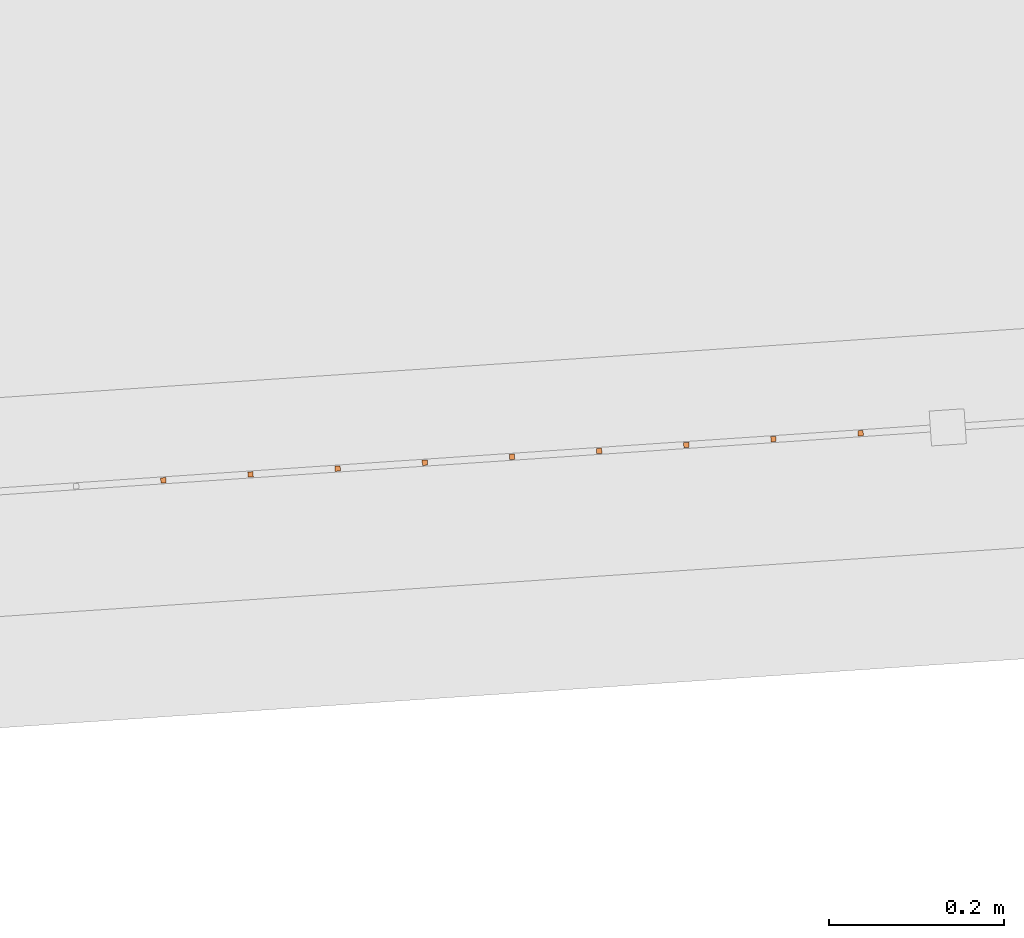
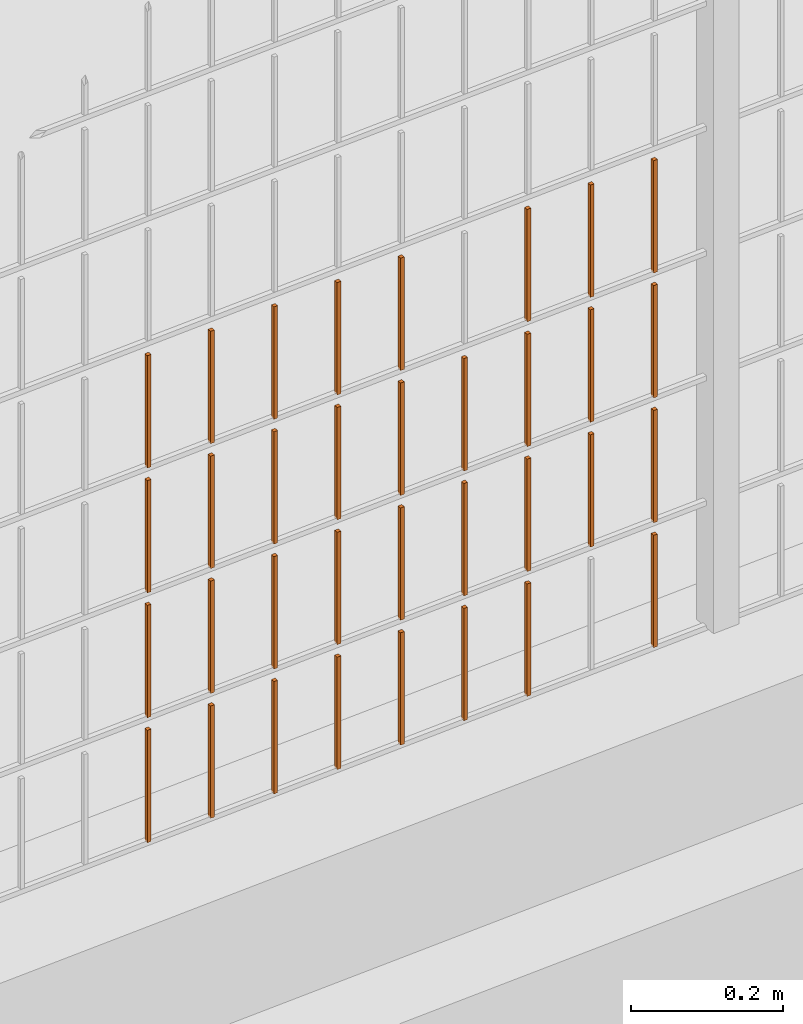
# One storey, part 304 of 1809: 34 proxies, 1 element without a shape of its own.
"""IFC2X3 building model written with IfcOpenShell, lengths in millimetres."""

from ifc_helpers import new_model, entity, si_unit, converted_unit, derived_unit, money_unit, direction, frame, origin_with_axes, place, context, subcontext, project, spatial, faceted_brep, source, transform, mapped, material, type_object, element, aggregate, save


model = new_model("IFC2X3")

# Units and contexts
model_context = context("Model", 3, precision=0.01, world=origin_with_axes(), true_north=direction((0.0, 1.0)))
body_context = subcontext(model_context, "Body", "Model", "MODEL_VIEW")
ifc_project = project(units=[si_unit("LENGTHUNIT", "METRE", prefix="MILLI"), si_unit("AREAUNIT", "SQUARE_METRE"), si_unit("VOLUMEUNIT", "CUBIC_METRE"), converted_unit("PLANEANGLEUNIT", "DEGREE", entity("IfcPlaneAngleMeasure", 0.0174532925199), si_unit("PLANEANGLEUNIT", "RADIAN"), dimensions=[0, 0, 0, 0, 0, 0, 0]), si_unit("SOLIDANGLEUNIT", "STERADIAN"), money_unit("EUR"), converted_unit("TIMEUNIT", "Year", entity("IfcTimeMeasure", 31556926.0), si_unit("TIMEUNIT", "SECOND"), dimensions=[0, 0, 1, 0, 0, 0, 0]), si_unit("MASSUNIT", "GRAM", prefix="KILO"), si_unit("THERMODYNAMICTEMPERATUREUNIT", "DEGREE_CELSIUS"), si_unit("LUMINOUSINTENSITYUNIT", "LUMEN"), si_unit("ENERGYUNIT", "JOULE", prefix="MEGA"), derived_unit("THERMALCONDUCTANCEUNIT", [(si_unit("POWERUNIT", "WATT"), 1), (si_unit("LENGTHUNIT", "METRE"), -1), (si_unit("THERMODYNAMICTEMPERATUREUNIT", "KELVIN"), -1)]), derived_unit("SPECIFICHEATCAPACITYUNIT", [(si_unit("ENERGYUNIT", "JOULE"), 1), (si_unit("MASSUNIT", "GRAM", prefix="KILO"), -1), (si_unit("THERMODYNAMICTEMPERATUREUNIT", "KELVIN"), -1)]), derived_unit("MASSDENSITYUNIT", [(si_unit("MASSUNIT", "GRAM", prefix="KILO"), 1), (si_unit("VOLUMEUNIT", "CUBIC_METRE"), -1)])], contexts=[model_context])

# Site, building, storey
site_placement = place(None, origin_with_axes())
site = spatial("IfcSite", under=ifc_project, at=site_placement, Name="Politse- ja Piirivalveameti ning Päästeameti ühishoone", CompositionType="ELEMENT")
building_placement = place(site_placement, origin_with_axes())
building = spatial("IfcBuilding", under=site, at=building_placement, Name="Politse- ja Piirivalveameti ning Päästeameti ühishoone", CompositionType="ELEMENT")
storey_placement = place(building_placement, origin_with_axes())
storey = spatial("IfcBuildingStorey", under=building, at=storey_placement, Name="Esimene korrus", CompositionType="ELEMENT", Elevation=0.0)

# Proxies
building_element_proxy_type_1 = type_object("IfcBuildingElementProxyType", Name="Railing Type", PredefinedType="NOTDEFINED")
proxy_1_placement = place(storey_placement, frame((89252.001212, -29183.4766571, 203.661247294), z_axis=(0.0, 0.0, 1.0), x_axis=(1.0, 0.0, 0.0)))
proxy_1 = element("IfcBuildingElementProxy", 1, at=proxy_1_placement, inside=storey, type_object=building_element_proxy_type_1, Name="PIIRDEAED")
ifc_material = material(Name="ET-03_Raud")
building_element_proxy_type_2 = type_object("IfcBuildingElementProxyType", Name="IfcBuildingElementProxy", PredefinedType="NOTDEFINED")
shared_shape_1 = source(origin_with_axes(), body_context, "Body", "Brep", [
    faceted_brep([(3.0, 3.0, -0.000752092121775), (-3.0, 3.0, -0.000752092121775), (-3.0, 3.0, 179.99926046), (3.0, 3.0, 179.99926046), (3.0, -3.0, 0.000752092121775), (-3.0, -3.0, 0.000752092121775), (-3.0, -3.0, 180.000764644), (3.0, -3.0, 180.000764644)], [[[0, 1, 2, 3]], [[0, 4, 5, 1]], [[1, 5, 6, 2]], [[3, 2, 6, 7]], [[4, 0, 3, 7]], [[5, 4, 7, 6]]]),
])
proxy_2_placement = place(proxy_1_placement, frame((-42928.8680952, -20197.4577937, 16.4477078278), z_axis=(0.0, 0.0, 1.0), x_axis=(1.0, 0.0, 0.0)))
proxy_2 = element("IfcBuildingElementProxy", 2, at=proxy_2_placement, type_object=building_element_proxy_type_2, material=ifc_material, Name="BALUSTER - 001", context=body_context, shape_type="MappedRepresentation", body=[
    mapped(shared_shape_1, transform((0.0, 0.0, 0.0), x_axis=(-0.0673926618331, 0.997726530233, 0.0), y_axis=(-0.997726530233, -0.0673926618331, 0.0), z_axis=(0.0, 0.0, 1.0))),
])
shared_shape_2 = source(origin_with_axes(), body_context, "Body", "Brep", [
    faceted_brep([(3.0, 3.0, -0.000752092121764), (-3.0, 3.0, -0.000752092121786), (-3.0, 3.0, 179.99926046), (3.0, 3.0, 179.99926046), (3.0, -3.0, 0.000752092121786), (-3.0, -3.0, 0.000752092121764), (-3.0, -3.0, 180.000764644), (3.0, -3.0, 180.000764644)], [[[0, 1, 2, 3]], [[0, 4, 5, 1]], [[1, 5, 6, 2]], [[3, 2, 6, 7]], [[4, 0, 3, 7]], [[5, 4, 7, 6]]]),
])
proxy_3_placement = place(proxy_1_placement, frame((-42529.7774831, -20170.500729, 16.5479867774), z_axis=(0.0, 0.0, 1.0), x_axis=(1.0, 0.0, 0.0)))
proxy_3 = element("IfcBuildingElementProxy", 3, at=proxy_3_placement, type_object=building_element_proxy_type_2, material=ifc_material, Name="BALUSTER - 001", context=body_context, shape_type="MappedRepresentation", body=[
    mapped(shared_shape_2, transform((0.0, 0.0, 0.0), x_axis=(-0.0673926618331, 0.997726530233, 0.0), y_axis=(-0.997726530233, -0.0673926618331, 0.0), z_axis=(0.0, 0.0, 1.0))),
])
shared_shape_3 = source(origin_with_axes(), body_context, "Body", "Brep", [
    faceted_brep([(3.0, 3.0, -0.000752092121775), (-3.0, 3.0, -0.000752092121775), (-3.0, 3.0, 179.99926046), (3.0, 3.0, 179.99926046), (3.0, -3.0, 0.000752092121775), (-3.0, -3.0, 0.000752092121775), (-3.0, -3.0, 180.000764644), (3.0, -3.0, 180.000764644)], [[[0, 1, 2, 3]], [[0, 4, 5, 1]], [[1, 5, 6, 2]], [[3, 2, 6, 7]], [[4, 0, 3, 7]], [[5, 4, 7, 6]]]),
])
proxy_4_placement = place(proxy_1_placement, frame((-42928.8680952, -20197.4577937, 216.447707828), z_axis=(0.0, 0.0, 1.0), x_axis=(1.0, 0.0, 0.0)))
proxy_4 = element("IfcBuildingElementProxy", 4, at=proxy_4_placement, type_object=building_element_proxy_type_2, material=ifc_material, Name="BALUSTER - 001", context=body_context, shape_type="MappedRepresentation", body=[
    mapped(shared_shape_3, transform((0.0, 0.0, 0.0), x_axis=(-0.0673926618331, 0.997726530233, 0.0), y_axis=(-0.997726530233, -0.0673926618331, 0.0), z_axis=(0.0, 0.0, 1.0))),
])
shared_shape_4 = source(origin_with_axes(), body_context, "Body", "Brep", [
    faceted_brep([(3.0, 3.0, -0.000752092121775), (-3.0, 3.0, -0.000752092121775), (-3.0, 3.0, 179.99926046), (3.0, 3.0, 179.99926046), (3.0, -3.0, 0.000752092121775), (-3.0, -3.0, 0.000752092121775), (-3.0, -3.0, 180.000764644), (3.0, -3.0, 180.000764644)], [[[0, 1, 2, 3]], [[0, 4, 5, 1]], [[1, 5, 6, 2]], [[3, 2, 6, 7]], [[4, 0, 3, 7]], [[5, 4, 7, 6]]]),
])
proxy_5_placement = place(proxy_1_placement, frame((-42928.8680952, -20197.4577937, 416.447707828), z_axis=(0.0, 0.0, 1.0), x_axis=(1.0, 0.0, 0.0)))
proxy_5 = element("IfcBuildingElementProxy", 5, at=proxy_5_placement, type_object=building_element_proxy_type_2, material=ifc_material, Name="BALUSTER - 001", context=body_context, shape_type="MappedRepresentation", body=[
    mapped(shared_shape_4, transform((0.0, 0.0, 0.0), x_axis=(-0.0673926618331, 0.997726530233, 0.0), y_axis=(-0.997726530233, -0.0673926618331, 0.0), z_axis=(0.0, 0.0, 1.0))),
])
shared_shape_5 = source(origin_with_axes(), body_context, "Body", "Brep", [
    faceted_brep([(3.0, 3.0, -0.000752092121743), (-3.0, 3.0, -0.000752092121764), (-3.0, 3.0, 179.99926046), (3.0, 3.0, 179.99926046), (3.0, -3.0, 0.000752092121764), (-3.0, -3.0, 0.000752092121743), (-3.0, -3.0, 180.000764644), (3.0, -3.0, 180.000764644)], [[[0, 1, 2, 3]], [[0, 4, 5, 1]], [[1, 5, 6, 2]], [[3, 2, 6, 7]], [[4, 0, 3, 7]], [[5, 4, 7, 6]]]),
])
proxy_6_placement = place(proxy_1_placement, frame((-42629.5501361, -20177.2399952, 416.52291704), z_axis=(0.0, 0.0, 1.0), x_axis=(1.0, 0.0, 0.0)))
proxy_6 = element("IfcBuildingElementProxy", 6, at=proxy_6_placement, type_object=building_element_proxy_type_2, material=ifc_material, Name="BALUSTER - 001", context=body_context, shape_type="MappedRepresentation", body=[
    mapped(shared_shape_5, transform((0.0, 0.0, 0.0), x_axis=(-0.0673926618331, 0.997726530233, 0.0), y_axis=(-0.997726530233, -0.0673926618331, 0.0), z_axis=(0.0, 0.0, 1.0))),
])
shared_shape_6 = source(origin_with_axes(), body_context, "Body", "Brep", [
    faceted_brep([(3.0, 3.0, -0.000752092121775), (-3.0, 3.0, -0.000752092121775), (-3.0, 3.0, 179.99926046), (3.0, 3.0, 179.99926046), (3.0, -3.0, 0.000752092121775), (-3.0, -3.0, 0.000752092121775), (-3.0, -3.0, 180.000764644), (3.0, -3.0, 180.000764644)], [[[0, 1, 2, 3]], [[0, 4, 5, 1]], [[1, 5, 6, 2]], [[3, 2, 6, 7]], [[4, 0, 3, 7]], [[5, 4, 7, 6]]]),
])
proxy_7_placement = place(proxy_1_placement, frame((-42928.8680952, -20197.4577937, 616.447707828), z_axis=(0.0, 0.0, 1.0), x_axis=(1.0, 0.0, 0.0)))
proxy_7 = element("IfcBuildingElementProxy", 7, at=proxy_7_placement, type_object=building_element_proxy_type_2, material=ifc_material, Name="BALUSTER - 001", context=body_context, shape_type="MappedRepresentation", body=[
    mapped(shared_shape_6, transform((0.0, 0.0, 0.0), x_axis=(-0.0673926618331, 0.997726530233, 0.0), y_axis=(-0.997726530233, -0.0673926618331, 0.0), z_axis=(0.0, 0.0, 1.0))),
])
shared_shape_7 = source(origin_with_axes(), body_context, "Body", "Brep", [
    faceted_brep([(3.0, 3.0, -0.000752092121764), (-3.0, 3.0, -0.000752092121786), (-3.0, 3.0, 179.99926046), (3.0, 3.0, 179.99926046), (3.0, -3.0, 0.000752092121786), (-3.0, -3.0, 0.000752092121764), (-3.0, -3.0, 180.000764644), (3.0, -3.0, 180.000764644)], [[[0, 1, 2, 3]], [[0, 4, 5, 1]], [[1, 5, 6, 2]], [[3, 2, 6, 7]], [[4, 0, 3, 7]], [[5, 4, 7, 6]]]),
])
proxy_8_placement = place(proxy_1_placement, frame((-42529.7774831, -20170.500729, 616.547986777), z_axis=(0.0, 0.0, 1.0), x_axis=(1.0, 0.0, 0.0)))
proxy_8 = element("IfcBuildingElementProxy", 8, at=proxy_8_placement, type_object=building_element_proxy_type_2, material=ifc_material, Name="BALUSTER - 001", context=body_context, shape_type="MappedRepresentation", body=[
    mapped(shared_shape_7, transform((0.0, 0.0, 0.0), x_axis=(-0.0673926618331, 0.997726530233, 0.0), y_axis=(-0.997726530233, -0.0673926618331, 0.0), z_axis=(0.0, 0.0, 1.0))),
])
shared_shape_8 = source(origin_with_axes(), body_context, "Body", "Brep", [
    faceted_brep([(3.0, 3.0, -0.000752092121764), (-3.0, 3.0, -0.000752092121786), (-3.0, 3.0, 179.99926046), (3.0, 3.0, 179.99926046), (3.0, -3.0, 0.000752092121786), (-3.0, -3.0, 0.000752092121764), (-3.0, -3.0, 180.000764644), (3.0, -3.0, 180.000764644)], [[[0, 1, 2, 3]], [[0, 4, 5, 1]], [[1, 5, 6, 2]], [[3, 2, 6, 7]], [[4, 0, 3, 7]], [[5, 4, 7, 6]]]),
])
proxy_9_placement = place(proxy_1_placement, frame((-42529.7774831, -20170.500729, 216.547986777), z_axis=(0.0, 0.0, 1.0), x_axis=(1.0, 0.0, 0.0)))
proxy_9 = element("IfcBuildingElementProxy", 9, at=proxy_9_placement, type_object=building_element_proxy_type_2, material=ifc_material, Name="BALUSTER - 001", context=body_context, shape_type="MappedRepresentation", body=[
    mapped(shared_shape_8, transform((0.0, 0.0, 0.0), x_axis=(-0.0673926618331, 0.997726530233, 0.0), y_axis=(-0.997726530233, -0.0673926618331, 0.0), z_axis=(0.0, 0.0, 1.0))),
])
proxy_10_placement = place(proxy_1_placement, frame((-42529.7774831, -20170.500729, 416.547986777), z_axis=(0.0, 0.0, 1.0), x_axis=(1.0, 0.0, 0.0)))
proxy_10 = element("IfcBuildingElementProxy", 10, at=proxy_10_placement, type_object=building_element_proxy_type_2, material=ifc_material, Name="BALUSTER - 001", context=body_context, shape_type="MappedRepresentation", body=[
    mapped(shared_shape_8, transform((0.0, 0.0, 0.0), x_axis=(-0.0673926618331, 0.997726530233, 0.0), y_axis=(-0.997726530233, -0.0673926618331, 0.0), z_axis=(0.0, 0.0, 1.0))),
])
shared_shape_9 = source(origin_with_axes(), body_context, "Body", "Brep", [
    faceted_brep([(3.0, 3.0, -0.000752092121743), (-3.0, 3.0, -0.000752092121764), (-3.0, 3.0, 179.99926046), (3.0, 3.0, 179.99926046), (3.0, -3.0, 0.000752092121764), (-3.0, -3.0, 0.000752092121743), (-3.0, -3.0, 180.000764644), (3.0, -3.0, 180.000764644)], [[[0, 1, 2, 3]], [[0, 4, 5, 1]], [[1, 5, 6, 2]], [[3, 2, 6, 7]], [[4, 0, 3, 7]], [[5, 4, 7, 6]]]),
])
proxy_11_placement = place(proxy_1_placement, frame((-42629.5501361, -20177.2399952, 216.52291704), z_axis=(0.0, 0.0, 1.0), x_axis=(1.0, 0.0, 0.0)))
proxy_11 = element("IfcBuildingElementProxy", 11, at=proxy_11_placement, type_object=building_element_proxy_type_2, material=ifc_material, Name="BALUSTER - 001", context=body_context, shape_type="MappedRepresentation", body=[
    mapped(shared_shape_9, transform((0.0, 0.0, 0.0), x_axis=(-0.0673926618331, 0.997726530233, 0.0), y_axis=(-0.997726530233, -0.0673926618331, 0.0), z_axis=(0.0, 0.0, 1.0))),
])
shared_shape_10 = source(origin_with_axes(), body_context, "Body", "Brep", [
    faceted_brep([(3.0, 3.0, -0.000752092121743), (-3.0, 3.0, -0.000752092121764), (-3.0, 3.0, 179.99926046), (3.0, 3.0, 179.99926046), (3.0, -3.0, 0.000752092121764), (-3.0, -3.0, 0.000752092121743), (-3.0, -3.0, 180.000764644), (3.0, -3.0, 180.000764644)], [[[0, 1, 2, 3]], [[0, 4, 5, 1]], [[1, 5, 6, 2]], [[3, 2, 6, 7]], [[4, 0, 3, 7]], [[5, 4, 7, 6]]]),
])
proxy_12_placement = place(proxy_1_placement, frame((-42629.5501361, -20177.2399952, 16.52291704), z_axis=(0.0, 0.0, 1.0), x_axis=(1.0, 0.0, 0.0)))
proxy_12 = element("IfcBuildingElementProxy", 12, at=proxy_12_placement, type_object=building_element_proxy_type_2, material=ifc_material, Name="BALUSTER - 001", context=body_context, shape_type="MappedRepresentation", body=[
    mapped(shared_shape_10, transform((0.0, 0.0, 0.0), x_axis=(-0.0673926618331, 0.997726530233, 0.0), y_axis=(-0.997726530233, -0.0673926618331, 0.0), z_axis=(0.0, 0.0, 1.0))),
])
shared_shape_11 = source(origin_with_axes(), body_context, "Body", "Brep", [
    faceted_brep([(3.0, 3.0, -0.000752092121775), (-3.0, 3.0, -0.000752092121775), (-3.0, 3.0, 179.99926046), (3.0, 3.0, 179.99926046), (3.0, -3.0, 0.000752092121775), (-3.0, -3.0, 0.000752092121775), (-3.0, -3.0, 180.000764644), (3.0, -3.0, 180.000764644)], [[[0, 1, 2, 3]], [[0, 4, 5, 1]], [[1, 5, 6, 2]], [[3, 2, 6, 7]], [[4, 0, 3, 7]], [[5, 4, 7, 6]]]),
])
proxy_13_placement = place(proxy_1_placement, frame((-42430.0048301, -20163.7614628, 216.573056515), z_axis=(0.0, 0.0, 1.0), x_axis=(1.0, 0.0, 0.0)))
proxy_13 = element("IfcBuildingElementProxy", 13, at=proxy_13_placement, type_object=building_element_proxy_type_2, material=ifc_material, Name="BALUSTER - 001", context=body_context, shape_type="MappedRepresentation", body=[
    mapped(shared_shape_11, transform((0.0, 0.0, 0.0), x_axis=(-0.0673926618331, 0.997726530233, 0.0), y_axis=(-0.997726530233, -0.0673926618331, 0.0), z_axis=(0.0, 0.0, 1.0))),
])
proxy_14_placement = place(proxy_1_placement, frame((-42430.0048301, -20163.7614628, 616.573056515), z_axis=(0.0, 0.0, 1.0), x_axis=(1.0, 0.0, 0.0)))
proxy_14 = element("IfcBuildingElementProxy", 14, at=proxy_14_placement, type_object=building_element_proxy_type_2, material=ifc_material, Name="BALUSTER - 001", context=body_context, shape_type="MappedRepresentation", body=[
    mapped(shared_shape_11, transform((0.0, 0.0, 0.0), x_axis=(-0.0673926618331, 0.997726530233, 0.0), y_axis=(-0.997726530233, -0.0673926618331, 0.0), z_axis=(0.0, 0.0, 1.0))),
])
shared_shape_12 = source(origin_with_axes(), body_context, "Body", "Brep", [
    faceted_brep([(3.0, 3.0, -0.000752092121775), (-3.0, 3.0, -0.000752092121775), (-3.0, 3.0, 179.99926046), (3.0, 3.0, 179.99926046), (3.0, -3.0, 0.000752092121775), (-3.0, -3.0, 0.000752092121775), (-3.0, -3.0, 180.000764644), (3.0, -3.0, 180.000764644)], [[[0, 1, 2, 3]], [[0, 4, 5, 1]], [[1, 5, 6, 2]], [[3, 2, 6, 7]], [[4, 0, 3, 7]], [[5, 4, 7, 6]]]),
])
proxy_15_placement = place(proxy_1_placement, frame((-42430.0048301, -20163.7614628, 416.573056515), z_axis=(0.0, 0.0, 1.0), x_axis=(1.0, 0.0, 0.0)))
proxy_15 = element("IfcBuildingElementProxy", 15, at=proxy_15_placement, type_object=building_element_proxy_type_2, material=ifc_material, Name="BALUSTER - 001", context=body_context, shape_type="MappedRepresentation", body=[
    mapped(shared_shape_12, transform((0.0, 0.0, 0.0), x_axis=(-0.0673926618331, 0.997726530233, 0.0), y_axis=(-0.997726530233, -0.0673926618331, 0.0), z_axis=(0.0, 0.0, 1.0))),
])
shared_shape_13 = source(origin_with_axes(), body_context, "Body", "Brep", [
    faceted_brep([(3.0, 3.0, -0.000752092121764), (-3.0, 3.0, -0.000752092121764), (-3.0, 3.0, 179.99926046), (3.0, 3.0, 179.99926046), (3.0, -3.0, 0.000752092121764), (-3.0, -3.0, 0.000752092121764), (-3.0, -3.0, 180.000764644), (3.0, -3.0, 180.000764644)], [[[0, 1, 2, 3]], [[0, 4, 5, 1]], [[1, 5, 6, 2]], [[3, 2, 6, 7]], [[4, 0, 3, 7]], [[5, 4, 7, 6]]]),
])
proxy_16_placement = place(proxy_1_placement, frame((-42829.0954422, -20190.7185276, 616.472777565), z_axis=(0.0, 0.0, 1.0), x_axis=(1.0, 0.0, 0.0)))
proxy_16 = element("IfcBuildingElementProxy", 16, at=proxy_16_placement, type_object=building_element_proxy_type_2, material=ifc_material, Name="BALUSTER - 001", context=body_context, shape_type="MappedRepresentation", body=[
    mapped(shared_shape_13, transform((0.0, 0.0, 0.0), x_axis=(-0.0673926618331, 0.997726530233, 0.0), y_axis=(-0.997726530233, -0.0673926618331, 0.0), z_axis=(0.0, 0.0, 1.0))),
])
shared_shape_14 = source(origin_with_axes(), body_context, "Body", "Brep", [
    faceted_brep([(3.0, 3.0, -0.000752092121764), (-3.0, 3.0, -0.000752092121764), (-3.0, 3.0, 179.99926046), (3.0, 3.0, 179.99926046), (3.0, -3.0, 0.000752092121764), (-3.0, -3.0, 0.000752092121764), (-3.0, -3.0, 180.000764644), (3.0, -3.0, 180.000764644)], [[[0, 1, 2, 3]], [[0, 4, 5, 1]], [[1, 5, 6, 2]], [[3, 2, 6, 7]], [[4, 0, 3, 7]], [[5, 4, 7, 6]]]),
])
proxy_17_placement = place(proxy_1_placement, frame((-42829.0954422, -20190.7185276, 16.4727775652), z_axis=(0.0, 0.0, 1.0), x_axis=(1.0, 0.0, 0.0)))
proxy_17 = element("IfcBuildingElementProxy", 17, at=proxy_17_placement, type_object=building_element_proxy_type_2, material=ifc_material, Name="BALUSTER - 001", context=body_context, shape_type="MappedRepresentation", body=[
    mapped(shared_shape_14, transform((0.0, 0.0, 0.0), x_axis=(-0.0673926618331, 0.997726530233, 0.0), y_axis=(-0.997726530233, -0.0673926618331, 0.0), z_axis=(0.0, 0.0, 1.0))),
])
shared_shape_15 = source(origin_with_axes(), body_context, "Body", "Brep", [
    faceted_brep([(3.0, 3.0, -0.000752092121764), (-3.0, 3.0, -0.000752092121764), (-3.0, 3.0, 179.99926046), (3.0, 3.0, 179.99926046), (3.0, -3.0, 0.000752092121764), (-3.0, -3.0, 0.000752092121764), (-3.0, -3.0, 180.000764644), (3.0, -3.0, 180.000764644)], [[[0, 1, 2, 3]], [[0, 4, 5, 1]], [[1, 5, 6, 2]], [[3, 2, 6, 7]], [[4, 0, 3, 7]], [[5, 4, 7, 6]]]),
])
proxy_18_placement = place(proxy_1_placement, frame((-43128.4134013, -20210.9363261, 16.397568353), z_axis=(0.0, 0.0, 1.0), x_axis=(1.0, 0.0, 0.0)))
proxy_18 = element("IfcBuildingElementProxy", 18, at=proxy_18_placement, type_object=building_element_proxy_type_2, material=ifc_material, Name="BALUSTER - 001", context=body_context, shape_type="MappedRepresentation", body=[
    mapped(shared_shape_15, transform((0.0, 0.0, 0.0), x_axis=(-0.0673926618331, 0.997726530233, 0.0), y_axis=(-0.997726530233, -0.0673926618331, 0.0), z_axis=(0.0, 0.0, 1.0))),
])
shared_shape_16 = source(origin_with_axes(), body_context, "Body", "Brep", [
    faceted_brep([(3.0, 3.0, -0.000752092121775), (-3.0, 3.0, -0.000752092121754), (-3.0, 3.0, 179.99926046), (3.0, 3.0, 179.99926046), (3.0, -3.0, 0.000752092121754), (-3.0, -3.0, 0.000752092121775), (-3.0, -3.0, 180.000764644), (3.0, -3.0, 180.000764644)], [[[0, 1, 2, 3]], [[0, 4, 5, 1]], [[1, 5, 6, 2]], [[3, 2, 6, 7]], [[4, 0, 3, 7]], [[5, 4, 7, 6]]]),
])
proxy_19_placement = place(proxy_1_placement, frame((-43028.6407482, -20204.1970599, 216.42263809), z_axis=(0.0, 0.0, 1.0), x_axis=(1.0, 0.0, 0.0)))
proxy_19 = element("IfcBuildingElementProxy", 19, at=proxy_19_placement, type_object=building_element_proxy_type_2, material=ifc_material, Name="BALUSTER - 001", context=body_context, shape_type="MappedRepresentation", body=[
    mapped(shared_shape_16, transform((0.0, 0.0, 0.0), x_axis=(-0.0673926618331, 0.997726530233, 0.0), y_axis=(-0.997726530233, -0.0673926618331, 0.0), z_axis=(0.0, 0.0, 1.0))),
])
proxy_20_placement = place(proxy_1_placement, frame((-42729.3227892, -20183.9792614, 416.497847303), z_axis=(0.0, 0.0, 1.0), x_axis=(1.0, 0.0, 0.0)))
proxy_20 = element("IfcBuildingElementProxy", 20, at=proxy_20_placement, type_object=building_element_proxy_type_2, material=ifc_material, Name="BALUSTER - 001", context=body_context, shape_type="MappedRepresentation", body=[
    mapped(shared_shape_16, transform((0.0, 0.0, 0.0), x_axis=(-0.0673926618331, 0.997726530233, 0.0), y_axis=(-0.997726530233, -0.0673926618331, 0.0), z_axis=(0.0, 0.0, 1.0))),
])
proxy_21_placement = place(proxy_1_placement, frame((-43028.6407482, -20204.1970599, 416.42263809), z_axis=(0.0, 0.0, 1.0), x_axis=(1.0, 0.0, 0.0)))
proxy_21 = element("IfcBuildingElementProxy", 21, at=proxy_21_placement, type_object=building_element_proxy_type_2, material=ifc_material, Name="BALUSTER - 001", context=body_context, shape_type="MappedRepresentation", body=[
    mapped(shared_shape_16, transform((0.0, 0.0, 0.0), x_axis=(-0.0673926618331, 0.997726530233, 0.0), y_axis=(-0.997726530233, -0.0673926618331, 0.0), z_axis=(0.0, 0.0, 1.0))),
])
shared_shape_17 = source(origin_with_axes(), body_context, "Body", "Brep", [
    faceted_brep([(3.0, 3.0, -0.000752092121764), (-3.0, 3.0, -0.000752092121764), (-3.0, 3.0, 179.99926046), (3.0, 3.0, 179.99926046), (3.0, -3.0, 0.000752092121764), (-3.0, -3.0, 0.000752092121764), (-3.0, -3.0, 180.000764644), (3.0, -3.0, 180.000764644)], [[[0, 1, 2, 3]], [[0, 4, 5, 1]], [[1, 5, 6, 2]], [[3, 2, 6, 7]], [[4, 0, 3, 7]], [[5, 4, 7, 6]]]),
])
proxy_22_placement = place(proxy_1_placement, frame((-43128.4134013, -20210.9363261, 216.397568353), z_axis=(0.0, 0.0, 1.0), x_axis=(1.0, 0.0, 0.0)))
proxy_22 = element("IfcBuildingElementProxy", 22, at=proxy_22_placement, type_object=building_element_proxy_type_2, material=ifc_material, Name="BALUSTER - 001", context=body_context, shape_type="MappedRepresentation", body=[
    mapped(shared_shape_17, transform((0.0, 0.0, 0.0), x_axis=(-0.0673926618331, 0.997726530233, 0.0), y_axis=(-0.997726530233, -0.0673926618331, 0.0), z_axis=(0.0, 0.0, 1.0))),
])
proxy_23_placement = place(proxy_1_placement, frame((-43128.4134013, -20210.9363261, 616.397568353), z_axis=(0.0, 0.0, 1.0), x_axis=(1.0, 0.0, 0.0)))
proxy_23 = element("IfcBuildingElementProxy", 23, at=proxy_23_placement, type_object=building_element_proxy_type_2, material=ifc_material, Name="BALUSTER - 001", context=body_context, shape_type="MappedRepresentation", body=[
    mapped(shared_shape_17, transform((0.0, 0.0, 0.0), x_axis=(-0.0673926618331, 0.997726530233, 0.0), y_axis=(-0.997726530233, -0.0673926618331, 0.0), z_axis=(0.0, 0.0, 1.0))),
])
shared_shape_18 = source(origin_with_axes(), body_context, "Body", "Brep", [
    faceted_brep([(3.0, 3.0, -0.000752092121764), (-3.0, 3.0, -0.000752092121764), (-3.0, 3.0, 179.99926046), (3.0, 3.0, 179.99926046), (3.0, -3.0, 0.000752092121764), (-3.0, -3.0, 0.000752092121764), (-3.0, -3.0, 180.000764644), (3.0, -3.0, 180.000764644)], [[[0, 1, 2, 3]], [[0, 4, 5, 1]], [[1, 5, 6, 2]], [[3, 2, 6, 7]], [[4, 0, 3, 7]], [[5, 4, 7, 6]]]),
])
proxy_24_placement = place(proxy_1_placement, frame((-43128.4134013, -20210.9363261, 416.397568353), z_axis=(0.0, 0.0, 1.0), x_axis=(1.0, 0.0, 0.0)))
proxy_24 = element("IfcBuildingElementProxy", 24, at=proxy_24_placement, type_object=building_element_proxy_type_2, material=ifc_material, Name="BALUSTER - 001", context=body_context, shape_type="MappedRepresentation", body=[
    mapped(shared_shape_18, transform((0.0, 0.0, 0.0), x_axis=(-0.0673926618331, 0.997726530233, 0.0), y_axis=(-0.997726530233, -0.0673926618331, 0.0), z_axis=(0.0, 0.0, 1.0))),
])
shared_shape_19 = source(origin_with_axes(), body_context, "Body", "Brep", [
    faceted_brep([(3.0, 3.0, -0.000752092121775), (-3.0, 3.0, -0.000752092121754), (-3.0, 3.0, 179.99926046), (3.0, 3.0, 179.99926046), (3.0, -3.0, 0.000752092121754), (-3.0, -3.0, 0.000752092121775), (-3.0, -3.0, 180.000764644), (3.0, -3.0, 180.000764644)], [[[0, 1, 2, 3]], [[0, 4, 5, 1]], [[1, 5, 6, 2]], [[3, 2, 6, 7]], [[4, 0, 3, 7]], [[5, 4, 7, 6]]]),
])
proxy_25_placement = place(proxy_1_placement, frame((-42729.3227892, -20183.9792614, 616.497847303), z_axis=(0.0, 0.0, 1.0), x_axis=(1.0, 0.0, 0.0)))
proxy_25 = element("IfcBuildingElementProxy", 25, at=proxy_25_placement, type_object=building_element_proxy_type_2, material=ifc_material, Name="BALUSTER - 001", context=body_context, shape_type="MappedRepresentation", body=[
    mapped(shared_shape_19, transform((0.0, 0.0, 0.0), x_axis=(-0.0673926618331, 0.997726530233, 0.0), y_axis=(-0.997726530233, -0.0673926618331, 0.0), z_axis=(0.0, 0.0, 1.0))),
])
proxy_26_placement = place(proxy_1_placement, frame((-43028.6407482, -20204.1970599, 616.42263809), z_axis=(0.0, 0.0, 1.0), x_axis=(1.0, 0.0, 0.0)))
proxy_26 = element("IfcBuildingElementProxy", 26, at=proxy_26_placement, type_object=building_element_proxy_type_2, material=ifc_material, Name="BALUSTER - 001", context=body_context, shape_type="MappedRepresentation", body=[
    mapped(shared_shape_19, transform((0.0, 0.0, 0.0), x_axis=(-0.0673926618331, 0.997726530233, 0.0), y_axis=(-0.997726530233, -0.0673926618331, 0.0), z_axis=(0.0, 0.0, 1.0))),
])
shared_shape_20 = source(origin_with_axes(), body_context, "Body", "Brep", [
    faceted_brep([(3.0, 3.0, -0.000752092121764), (-3.0, 3.0, -0.000752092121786), (-3.0, 3.0, 179.99926046), (3.0, 3.0, 179.99926046), (3.0, -3.0, 0.000752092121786), (-3.0, -3.0, 0.000752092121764), (-3.0, -3.0, 180.000764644), (3.0, -3.0, 180.000764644)], [[[0, 1, 2, 3]], [[0, 4, 5, 1]], [[1, 5, 6, 2]], [[3, 2, 6, 7]], [[4, 0, 3, 7]], [[5, 4, 7, 6]]]),
])
proxy_27_placement = place(proxy_1_placement, frame((-42330.2321771, -20157.0221966, 16.5981262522), z_axis=(0.0, 0.0, 1.0), x_axis=(1.0, 0.0, 0.0)))
proxy_27 = element("IfcBuildingElementProxy", 27, at=proxy_27_placement, type_object=building_element_proxy_type_2, material=ifc_material, Name="BALUSTER - 001", context=body_context, shape_type="MappedRepresentation", body=[
    mapped(shared_shape_20, transform((0.0, 0.0, 0.0), x_axis=(-0.0673926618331, 0.997726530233, 0.0), y_axis=(-0.997726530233, -0.0673926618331, 0.0), z_axis=(0.0, 0.0, 1.0))),
])
proxy_28_placement = place(proxy_1_placement, frame((-42330.2321771, -20157.0221966, 216.598126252), z_axis=(0.0, 0.0, 1.0), x_axis=(1.0, 0.0, 0.0)))
proxy_28 = element("IfcBuildingElementProxy", 28, at=proxy_28_placement, type_object=building_element_proxy_type_2, material=ifc_material, Name="BALUSTER - 001", context=body_context, shape_type="MappedRepresentation", body=[
    mapped(shared_shape_20, transform((0.0, 0.0, 0.0), x_axis=(-0.0673926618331, 0.997726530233, 0.0), y_axis=(-0.997726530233, -0.0673926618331, 0.0), z_axis=(0.0, 0.0, 1.0))),
])
shared_shape_21 = source(origin_with_axes(), body_context, "Body", "Brep", [
    faceted_brep([(3.0, 3.0, -0.000752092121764), (-3.0, 3.0, -0.000752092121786), (-3.0, 3.0, 179.99926046), (3.0, 3.0, 179.99926046), (3.0, -3.0, 0.000752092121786), (-3.0, -3.0, 0.000752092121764), (-3.0, -3.0, 180.000764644), (3.0, -3.0, 180.000764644)], [[[0, 1, 2, 3]], [[0, 4, 5, 1]], [[1, 5, 6, 2]], [[3, 2, 6, 7]], [[4, 0, 3, 7]], [[5, 4, 7, 6]]]),
])
proxy_29_placement = place(proxy_1_placement, frame((-42330.2321771, -20157.0221966, 416.598126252), z_axis=(0.0, 0.0, 1.0), x_axis=(1.0, 0.0, 0.0)))
proxy_29 = element("IfcBuildingElementProxy", 29, at=proxy_29_placement, type_object=building_element_proxy_type_2, material=ifc_material, Name="BALUSTER - 001", context=body_context, shape_type="MappedRepresentation", body=[
    mapped(shared_shape_21, transform((0.0, 0.0, 0.0), x_axis=(-0.0673926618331, 0.997726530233, 0.0), y_axis=(-0.997726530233, -0.0673926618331, 0.0), z_axis=(0.0, 0.0, 1.0))),
])
shared_shape_22 = source(origin_with_axes(), body_context, "Body", "Brep", [
    faceted_brep([(3.0, 3.0, -0.000752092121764), (-3.0, 3.0, -0.000752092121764), (-3.0, 3.0, 179.99926046), (3.0, 3.0, 179.99926046), (3.0, -3.0, 0.000752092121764), (-3.0, -3.0, 0.000752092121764), (-3.0, -3.0, 180.000764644), (3.0, -3.0, 180.000764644)], [[[0, 1, 2, 3]], [[0, 4, 5, 1]], [[1, 5, 6, 2]], [[3, 2, 6, 7]], [[4, 0, 3, 7]], [[5, 4, 7, 6]]]),
])
proxy_30_placement = place(proxy_1_placement, frame((-42829.0954422, -20190.7185276, 416.472777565), z_axis=(0.0, 0.0, 1.0), x_axis=(1.0, 0.0, 0.0)))
proxy_30 = element("IfcBuildingElementProxy", 30, at=proxy_30_placement, type_object=building_element_proxy_type_2, material=ifc_material, Name="BALUSTER - 001", context=body_context, shape_type="MappedRepresentation", body=[
    mapped(shared_shape_22, transform((0.0, 0.0, 0.0), x_axis=(-0.0673926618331, 0.997726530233, 0.0), y_axis=(-0.997726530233, -0.0673926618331, 0.0), z_axis=(0.0, 0.0, 1.0))),
])
shared_shape_23 = source(origin_with_axes(), body_context, "Body", "Brep", [
    faceted_brep([(3.0, 3.0, -0.000752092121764), (-3.0, 3.0, -0.000752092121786), (-3.0, 3.0, 179.99926046), (3.0, 3.0, 179.99926046), (3.0, -3.0, 0.000752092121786), (-3.0, -3.0, 0.000752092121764), (-3.0, -3.0, 180.000764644), (3.0, -3.0, 180.000764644)], [[[0, 1, 2, 3]], [[0, 4, 5, 1]], [[1, 5, 6, 2]], [[3, 2, 6, 7]], [[4, 0, 3, 7]], [[5, 4, 7, 6]]]),
])
proxy_31_placement = place(proxy_1_placement, frame((-42330.2321771, -20157.0221966, 616.598126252), z_axis=(0.0, 0.0, 1.0), x_axis=(1.0, 0.0, 0.0)))
proxy_31 = element("IfcBuildingElementProxy", 31, at=proxy_31_placement, type_object=building_element_proxy_type_2, material=ifc_material, Name="BALUSTER - 001", context=body_context, shape_type="MappedRepresentation", body=[
    mapped(shared_shape_23, transform((0.0, 0.0, 0.0), x_axis=(-0.0673926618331, 0.997726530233, 0.0), y_axis=(-0.997726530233, -0.0673926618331, 0.0), z_axis=(0.0, 0.0, 1.0))),
])
shared_shape_24 = source(origin_with_axes(), body_context, "Body", "Brep", [
    faceted_brep([(3.0, 3.0, -0.000752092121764), (-3.0, 3.0, -0.000752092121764), (-3.0, 3.0, 179.99926046), (3.0, 3.0, 179.99926046), (3.0, -3.0, 0.000752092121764), (-3.0, -3.0, 0.000752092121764), (-3.0, -3.0, 180.000764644), (3.0, -3.0, 180.000764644)], [[[0, 1, 2, 3]], [[0, 4, 5, 1]], [[1, 5, 6, 2]], [[3, 2, 6, 7]], [[4, 0, 3, 7]], [[5, 4, 7, 6]]]),
])
proxy_32_placement = place(proxy_1_placement, frame((-42829.0954422, -20190.7185276, 216.472777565), z_axis=(0.0, 0.0, 1.0), x_axis=(1.0, 0.0, 0.0)))
proxy_32 = element("IfcBuildingElementProxy", 32, at=proxy_32_placement, type_object=building_element_proxy_type_2, material=ifc_material, Name="BALUSTER - 001", context=body_context, shape_type="MappedRepresentation", body=[
    mapped(shared_shape_24, transform((0.0, 0.0, 0.0), x_axis=(-0.0673926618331, 0.997726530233, 0.0), y_axis=(-0.997726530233, -0.0673926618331, 0.0), z_axis=(0.0, 0.0, 1.0))),
])
shared_shape_25 = source(origin_with_axes(), body_context, "Body", "Brep", [
    faceted_brep([(3.0, 3.0, -0.000752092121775), (-3.0, 3.0, -0.000752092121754), (-3.0, 3.0, 179.99926046), (3.0, 3.0, 179.99926046), (3.0, -3.0, 0.000752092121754), (-3.0, -3.0, 0.000752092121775), (-3.0, -3.0, 180.000764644), (3.0, -3.0, 180.000764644)], [[[0, 1, 2, 3]], [[0, 4, 5, 1]], [[1, 5, 6, 2]], [[3, 2, 6, 7]], [[4, 0, 3, 7]], [[5, 4, 7, 6]]]),
])
proxy_33_placement = place(proxy_1_placement, frame((-42729.3227892, -20183.9792614, 16.4978473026), z_axis=(0.0, 0.0, 1.0), x_axis=(1.0, 0.0, 0.0)))
proxy_33 = element("IfcBuildingElementProxy", 33, at=proxy_33_placement, type_object=building_element_proxy_type_2, material=ifc_material, Name="BALUSTER - 001", context=body_context, shape_type="MappedRepresentation", body=[
    mapped(shared_shape_25, transform((0.0, 0.0, 0.0), x_axis=(-0.0673926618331, 0.997726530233, 0.0), y_axis=(-0.997726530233, -0.0673926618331, 0.0), z_axis=(0.0, 0.0, 1.0))),
])
proxy_34_placement = place(proxy_1_placement, frame((-43028.6407482, -20204.1970599, 16.4226380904), z_axis=(0.0, 0.0, 1.0), x_axis=(1.0, 0.0, 0.0)))
proxy_34 = element("IfcBuildingElementProxy", 34, at=proxy_34_placement, type_object=building_element_proxy_type_2, material=ifc_material, Name="BALUSTER - 001", context=body_context, shape_type="MappedRepresentation", body=[
    mapped(shared_shape_25, transform((0.0, 0.0, 0.0), x_axis=(-0.0673926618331, 0.997726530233, 0.0), y_axis=(-0.997726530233, -0.0673926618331, 0.0), z_axis=(0.0, 0.0, 1.0))),
])
shared_shape_26 = source(origin_with_axes(), body_context, "Body", "Brep", [
    faceted_brep([(3.0, 3.0, -0.000752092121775), (-3.0, 3.0, -0.000752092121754), (-3.0, 3.0, 179.99926046), (3.0, 3.0, 179.99926046), (3.0, -3.0, 0.000752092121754), (-3.0, -3.0, 0.000752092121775), (-3.0, -3.0, 180.000764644), (3.0, -3.0, 180.000764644)], [[[0, 1, 2, 3]], [[0, 4, 5, 1]], [[1, 5, 6, 2]], [[3, 2, 6, 7]], [[4, 0, 3, 7]], [[5, 4, 7, 6]]]),
])
proxy_35_placement = place(proxy_1_placement, frame((-42729.3227892, -20183.9792614, 216.497847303), z_axis=(0.0, 0.0, 1.0), x_axis=(1.0, 0.0, 0.0)))
proxy_35 = element("IfcBuildingElementProxy", 35, at=proxy_35_placement, type_object=building_element_proxy_type_2, material=ifc_material, Name="BALUSTER - 001", context=body_context, shape_type="MappedRepresentation", body=[
    mapped(shared_shape_26, transform((0.0, 0.0, 0.0), x_axis=(-0.0673926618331, 0.997726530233, 0.0), y_axis=(-0.997726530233, -0.0673926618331, 0.0), z_axis=(0.0, 0.0, 1.0))),
])
aggregate(proxy_1, [proxy_27, proxy_3, proxy_12, proxy_33, proxy_17, proxy_2, proxy_34, proxy_18, proxy_28, proxy_13, proxy_9, proxy_11, proxy_35, proxy_32, proxy_4, proxy_19, proxy_22, proxy_29, proxy_15, proxy_10, proxy_6, proxy_20, proxy_30, proxy_5, proxy_21, proxy_24, proxy_31, proxy_14, proxy_8, proxy_25, proxy_16, proxy_7, proxy_26, proxy_23])

save(model, "model.ifc")
